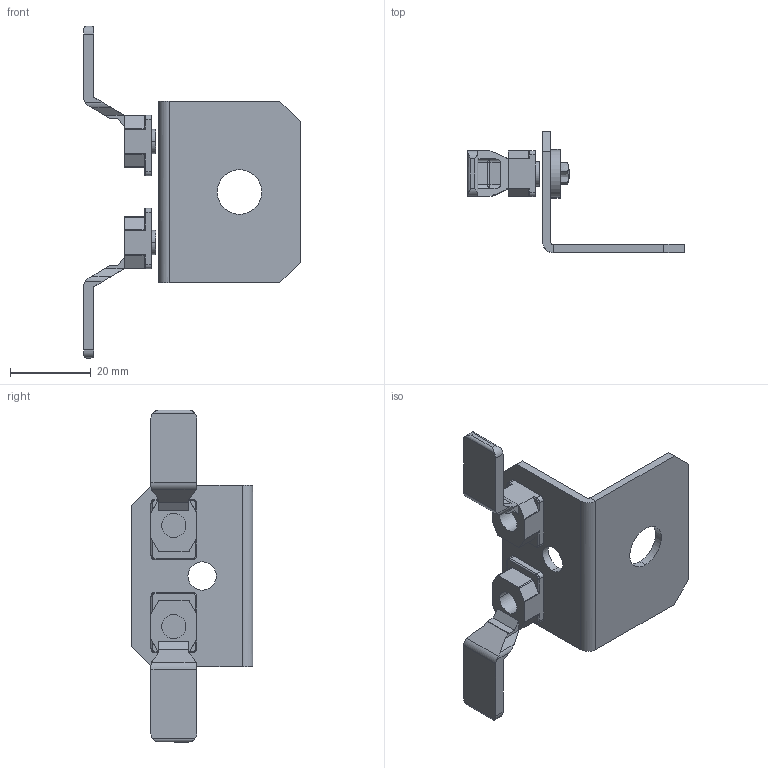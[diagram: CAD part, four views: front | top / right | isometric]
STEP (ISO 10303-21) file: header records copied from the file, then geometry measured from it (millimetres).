
FILE_DESCRIPTION(('CAx-IF Rec.Pracs.---Model Styling and Organization---1.2---2011-12-15','CAx-IF Rec.Pracs.---Geometric and Assembly Validation Properties---4.1---2014-06-16','CAx-IF Rec.Pracs.---PMI Polyline Presentation---2.0---2013-05-24'),'2;1');
FILE_NAME('R5K4.stp','2021-05-05T13:16:32+03:00',(''),(''),'STEP Interface 4.4 by CT CoreTechnologie','3D_Evolution4.4 by CT CoreTechnologie','');
FILE_SCHEMA(('AUTOMOTIVE_DESIGN { 1 0 10303 214 1 1 1 1 }'));
Length unit declared in the file: millimetre
Products named in the file (4): R5K4; AC00C485; RB.0561.00.00.0_-00; M6x16-DIN 7985 ISR_thread
Assembly tree (5 placements, depth 2):
  R5K4
    AC00C485  x2
    RB.0561.00.00.0_-00
    M6x16-DIN 7985 ISR_thread  x2
Bounding box: 53.5 x 30 x 82.1 mm (x, y, z)
Surface area: 9659.6 mm2 (no closed solid volume)
Topology: 0 solids, 7 shells, 206 faces, 506 edges, 308 vertices
Faces by surface type: cylinder 90, plane 88, bspline 28
Entity records: 4000 total; most frequent: CARTESIAN_POINT 1083, DIRECTION 577, ORIENTED_EDGE 560, EDGE_CURVE 280, AXIS2_PLACEMENT_3D 204, VERTEX_POINT 174, VECTOR 169, LINE 169
